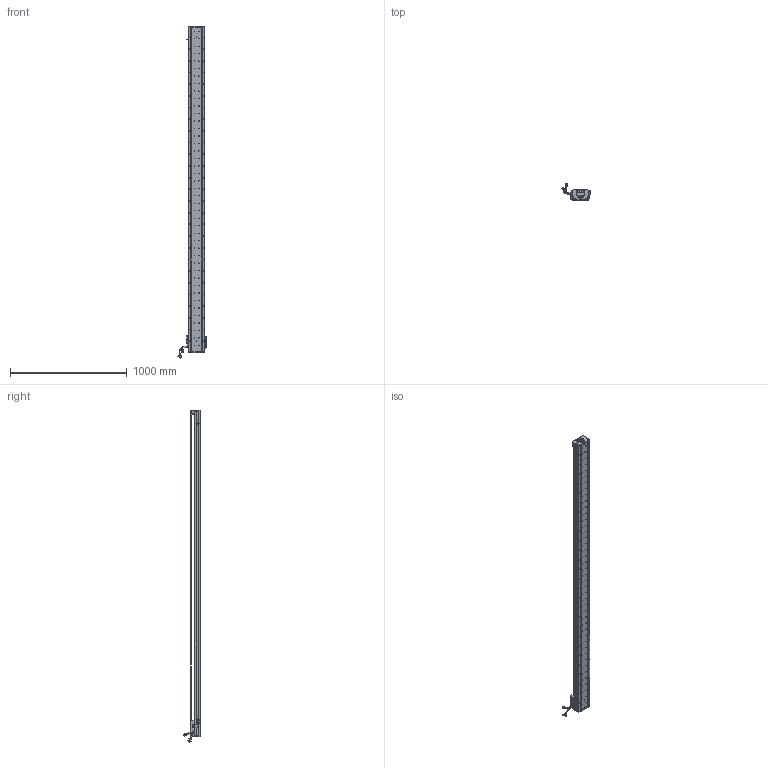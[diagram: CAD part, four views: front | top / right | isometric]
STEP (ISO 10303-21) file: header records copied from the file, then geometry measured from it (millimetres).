
FILE_DESCRIPTION (( 'STEP AP203' ), '1' );
FILE_NAME ('Z1-RY140D-1-L500-B-K.SLDASM_2600.step', '2021-05-17T07:35:50', ( '盈信电脑' ), ( '东莞市道滘镇水果街19号' ), 'SwSTEP 2.0', 'SolidWorks 2016', '' );
FILE_SCHEMA (( 'CONFIG_CONTROL_DESIGN' ));
Length unit declared in the file: millimetre
Products named in the file (36): SEAL-Part-1; SCREW-M1.7; LABEL-Part-1; HARNESS; SCREW-M1.6-2; Z-140詩湍傷裔啣; SCREW-M1.6-1; COVER; 080黍杅芛假蚾釱21遴; Z1-RY140圉猾敕臏賑輸(21遴); SCALE-Part-1; PSLH080_PSLF2; SCALE; SEAL; COVER-Part-1; LABEL; 140-Z-臏賑輸盄裔(21遴); 榋妏寠巭燃_暯_M2_2; PBU_SHEET; SCALE-Part-2; HARNESS-Part-2; Z1-RY140-L500直线电机模组底座_2600; Z1-RY140D-1-L500-B-K.SLDASM_2600; 覜茼ん672; SCREW-M1.7-1; HOLDER0; 140蚥薯蝶輸; Z-RY140感应器672光电感应片; SHIELDPLATE; SCREW-M1.6; 140雄赽晤鎢ん堤盄; Z1-RY140-L500詩湍100mm遵_2600; HARNESS-Part-1; Z-RY140詩湍奻揤裔; Z-RY140詩湍狟揤裔; SCREW-M1.6-3
Assembly tree (41 placements, depth 4):
  Z1-RY140D-1-L500-B-K.SLDASM_2600
    Z1-RY140-L500直线电机模组底座_2600
    Z-RY140感应器672光电感应片
    Z1-RY140圉猾敕臏賑輸(21遴)
    覜茼ん672  x3
    Z1-RY140-L500詩湍100mm遵_2600
    PSLH080_PSLF2
      SCALE
        SCALE-Part-1
        SCALE-Part-2
      HARNESS
        HARNESS-Part-1
        HARNESS-Part-2
      LABEL
        LABEL-Part-1
      COVER
        COVER-Part-1
      SEAL
        SEAL-Part-1
      榋妏寠巭燃_暯_M2_2
      SHIELDPLATE
      SCREW-M1.7
      SCREW-M1.7-1
      PBU_SHEET
      SCREW-M1.6
      SCREW-M1.6-1
      SCREW-M1.6-2
      SCREW-M1.6-3
      HOLDER0
    080黍杅芛假蚾釱21遴
    140-Z-臏賑輸盄裔(21遴)
    Z-140詩湍傷裔啣  x2
    Z-RY140詩湍狟揤裔  x2
    Z-RY140詩湍奻揤裔  x2
    140蚥薯蝶輸  x2
    140雄赽晤鎢ん堤盄
Bounding box: 239.79 x 143.88 x 2840.87 mm (x, y, z)
Volume: 8646302.7 mm3; surface area: 2291120.9 mm2
Topology: 36 solids, 36 shells, 4120 faces, 11247 edges, 7130 vertices
Faces by surface type: cylinder 2240, plane 1372, cone 386, torus 69, bspline 53
Entity records: 131399 total; most frequent: CARTESIAN_POINT 37569, ORIENTED_EDGE 19414, DIRECTION 17815, EDGE_CURVE 9707, AXIS2_PLACEMENT_3D 6608, VERTEX_POINT 6298, LINE 4599, VECTOR 4599
